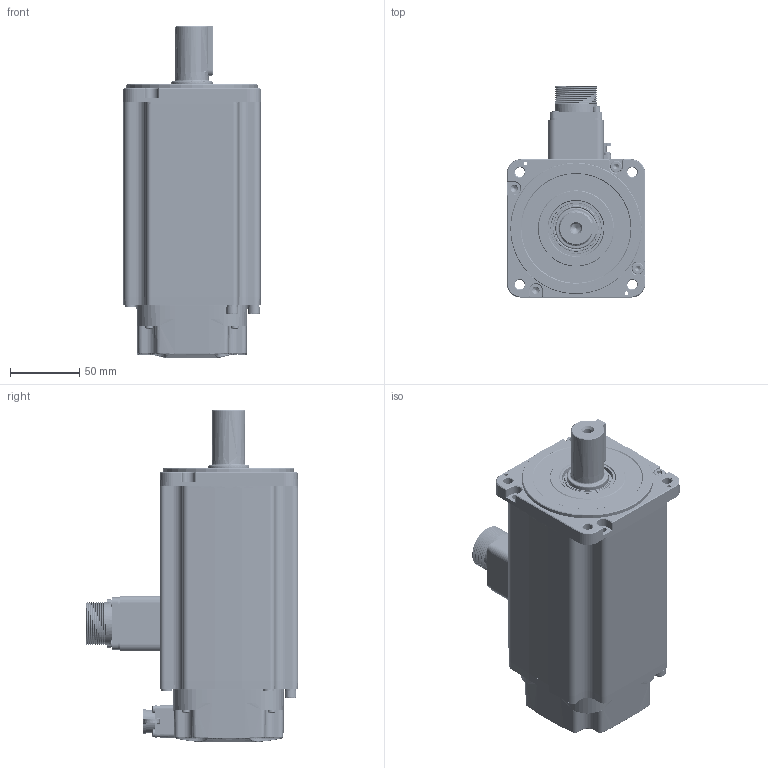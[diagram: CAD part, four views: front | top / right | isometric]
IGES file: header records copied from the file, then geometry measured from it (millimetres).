
Start section: SolidWorks IGES file using analytic representation for surfaces
Global section: file name: Z:\Products\Servo\08.2024\UNITRONICS\B5\UMM-0015CAB_EAB-B5.IGS; native system: SolidWorks 2022; preprocessor: SolidWorks 2022; author: OfirZ; date: 240820.111612; units: millimetre
Bounding box: 100 x 153.05 x 240 mm (x, y, z)
Surface area: 240209.9 mm2 (no closed solid volume)
Topology: 0 solids, 0 shells, 2029 faces, 28439 edges, 28363 vertices
Faces by surface type: revolution 1029, bspline 1000
